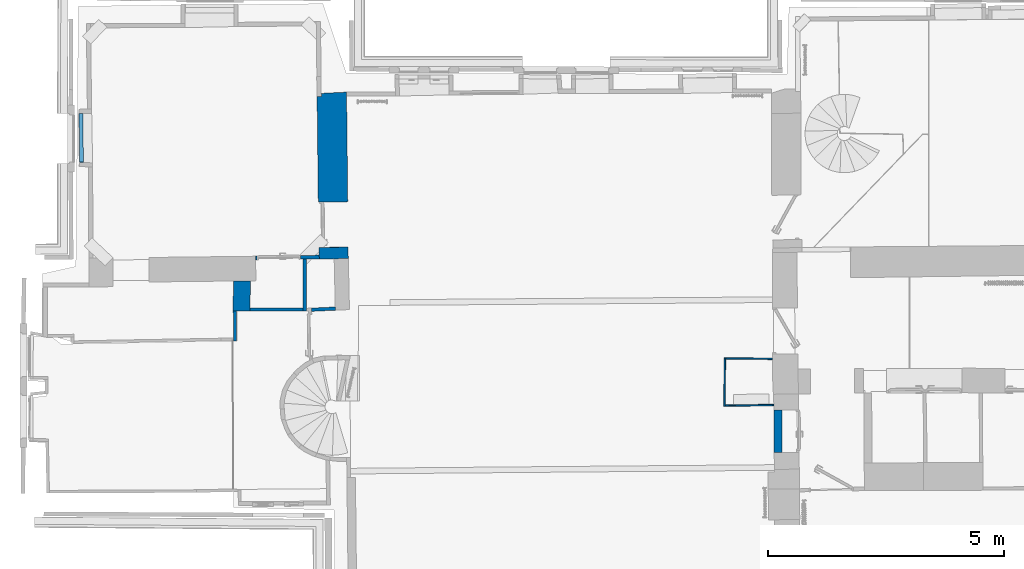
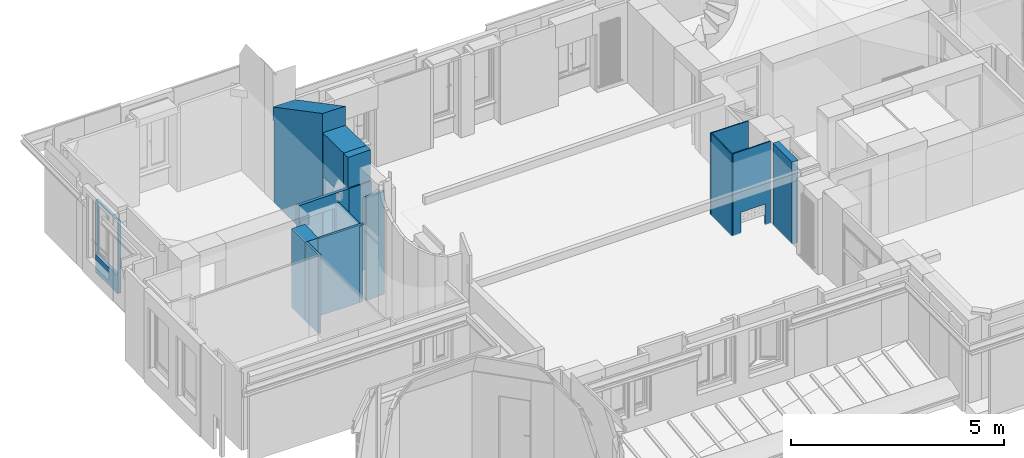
# One storey, part 12 of 72: 14 walls, 4 openings.
"""IFC2X3 building model written with IfcOpenShell, lengths in centimetres."""

from ifc_helpers import new_model, entity, si_unit, converted_unit, direction, frame, origin, origin_with_axes, origin_2d_with_axis, place, context, subcontext, project, spatial, polyline, rectangle, outline, extrude, clip, bounded_halfspace, shape, material, layer, layer_set, layer_usage, type_object, element, save


model = new_model("IFC2X3")

# Units and contexts
model_context = context("Model", 3, precision=0.0001, world=origin(), true_north=direction((0.225632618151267, 0.974212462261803, 0.0)))
body_context = subcontext(model_context, "Body", "Model", "MODEL_VIEW")
footprint_context = subcontext(model_context, "FootPrint", "Model", "MODEL_VIEW")
profile_context = subcontext(model_context, "Profile", "Model", "MODEL_VIEW")
ifc_project = project(units=[si_unit("LENGTHUNIT", "METRE", prefix="CENTI"), si_unit("AREAUNIT", "SQUARE_METRE", prefix="CENTI"), si_unit("VOLUMEUNIT", "CUBIC_METRE", prefix="CENTI"), converted_unit("PLANEANGLEUNIT", "DEGREE", entity("IfcRatioMeasure", 0.0174532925), si_unit("PLANEANGLEUNIT", "RADIAN"), dimensions=[0, 0, 0, 0, 0, 0, 0])], contexts=[model_context])

# Site, building, storey
site_placement = place(None, origin_with_axes())
site = spatial("IfcSite", under=ifc_project, at=site_placement, Name="Default Site", CompositionType="ELEMENT")
building_placement = place(site_placement, origin_with_axes())
building = spatial("IfcBuilding", under=site, at=building_placement, Name="Default Building", CompositionType="ELEMENT")
storey_placement = place(building_placement, frame((0.0, 0.0, 853.910374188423), z_axis=(0.0, 0.0, 1.0), x_axis=(1.0, 0.0, 0.0)))
storey = spatial("IfcBuildingStorey", under=building, at=storey_placement, Name="Niveau 2", CompositionType="ELEMENT", Elevation=853.910374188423)

# Walls
ifc_material = material(Name="<aucun>")
ifc_layer_1 = layer(ifc_material, 6.5)
ifc_layer_set_1 = layer_set([ifc_layer_1], Name="default")
ifc_layer_usage_1 = layer_usage(ifc_layer_set_1, "AXIS2", "POSITIVE", -3.25)
wall_type_1 = type_object("IfcWallType", Name="default 65", PredefinedType="NOTDEFINED", material=ifc_layer_set_1)
wall_1_placement = place(storey_placement, frame((-904.525063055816, 30.5917552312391, 1.4210854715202e-12), z_axis=(0.0, 0.0, 1.0), x_axis=(-0.0130954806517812, 0.999914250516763, 0.0)))
element("IfcWallStandardCase", 1, at=wall_1_placement, inside=storey, type_object=wall_type_1, material=ifc_layer_usage_1, Name="Enveloppe 170648", context=body_context, shape_type="SweptSolid", body=[
    extrude(rectangle(XDim=6.49999999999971, YDim=62.9751374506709, at=origin_2d_with_axis()), frame((31.4875687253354, 0.0, -1.77635683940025e-13), z_axis=(0.0, 0.0, 1.0), x_axis=(4.13211131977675e-15, -1.0, 0.0)), (0.0, 0.0, 1.0), 225.0),
])
ifc_layer_2 = layer(ifc_material, 6.0)
ifc_layer_set_2 = layer_set([ifc_layer_2], Name="default")
ifc_layer_usage_2 = layer_usage(ifc_layer_set_2, "AXIS2", "POSITIVE", -3.0)
wall_type_2 = type_object("IfcWallType", Name="default 60", PredefinedType="NOTDEFINED", material=ifc_layer_set_2)
wall_2_placement = place(storey_placement, frame((-872.912731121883, 96.7486196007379, 1.4210854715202e-12), z_axis=(0.0, 0.0, 1.0), x_axis=(0.999998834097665, 0.00152702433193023, 0.0)))
element("IfcWallStandardCase", 2, at=wall_2_placement, inside=storey, type_object=wall_type_2, material=ifc_layer_usage_2, Name="Enveloppe 168356", context=body_context, shape_type="Clipping", body=[
    clip(clip(clip(extrude(outline(polyline([(-0.0951422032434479, -3.00000000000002), (124.043876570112, -3.00000000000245), (123.963331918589, 2.99999999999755), (0.00485779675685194, 3.00000000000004), (-0.0951422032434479, -3.00000000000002)])), frame((0.0, 0.0, -3.5527136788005e-13), z_axis=(0.0, 0.0, 1.0), x_axis=(1.0, 0.0, 0.0)), (0.0, 0.0, 1.0), 221.999999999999), bounded_halfspace(frame((123.963331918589, 2.99999999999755, 218.5), z_axis=(0.0, 0.0, 1.0), x_axis=(0.0134228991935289, -0.999909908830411, 0.0)), True, frame((123.963331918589, 2.99999999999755, 218.5), z_axis=(0.0, 0.0, 1.0), x_axis=(1.0, 0.0, 0.0)), polyline([(-4.27435861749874, -0.476084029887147), (-4.27202053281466, 6.66133814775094e-14), (-8.88178419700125e-14, 0.0), (0.00373834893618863, -0.278480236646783), (-4.27435861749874, -0.476084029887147)]))), bounded_halfspace(frame((111.6912149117, 2.99999999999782, 218.5), z_axis=(0.0, 0.0, 1.0), x_axis=(1.0, -2.33055762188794e-14, 0.0)), True, frame((111.6912149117, 2.99999999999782, 218.5), z_axis=(0.0, 0.0, 1.0), x_axis=(1.0, 0.0, 0.0)), polyline([(-0.0294664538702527, -6.00000000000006), (-8.88178419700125e-14, 0.0), (8.00009647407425, -1.99840144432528e-13), (7.97063002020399, -6.00000000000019), (-0.0294664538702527, -6.00000000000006)]))), bounded_halfspace(frame((119.688973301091, 2.5239159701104, 218.5), z_axis=(0.0, 0.0, 1.0), x_axis=(0.998934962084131, 0.0461404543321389, 0.0)), True, frame((119.688973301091, 2.5239159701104, 218.5), z_axis=(0.0, 0.0, 1.0), x_axis=(1.0, 0.0, 0.0)), polyline([(-0.0271283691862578, -5.52391597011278), (-8.88178419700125e-14, 0.0), (4.27809696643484, 0.197603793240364), (4.35490326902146, -5.52391597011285), (-0.0271283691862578, -5.52391597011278)]))),
])
ifc_layer_3 = layer(ifc_material, 7.0)
ifc_layer_set_3 = layer_set([ifc_layer_3], Name="default")
ifc_layer_usage_3 = layer_usage(ifc_layer_set_3, "AXIS2", "POSITIVE", -3.5)
wall_type_3 = type_object("IfcWallType", Name="default 70", PredefinedType="NOTDEFINED", material=ifc_layer_set_3)
wall_3_placement = place(storey_placement, frame((-743.021662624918, 96.4383527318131, 1.4210854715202e-12), z_axis=(0.0, 0.0, 1.0), x_axis=(0.998863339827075, 0.0476657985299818, 0.0)))
element("IfcWallStandardCase", 3, at=wall_3_placement, inside=storey, type_object=wall_type_3, material=ifc_layer_usage_3, Name="Enveloppe 177079", context=body_context, shape_type="Clipping", body=[
    clip(extrude(outline(polyline([(0.0059746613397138, 3.50000000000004), (0.00597466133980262, -3.49999999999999), (50.7054738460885, -3.49999999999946), (50.8795081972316, 3.50000000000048), (0.0059746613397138, 3.50000000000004)])), frame((0.0, 0.0, -3.5527136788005e-13), z_axis=(0.0, 0.0, 1.0), x_axis=(1.0, 0.0, 0.0)), (0.0, 0.0, 1.0), 294.702416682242), bounded_halfspace(frame((0.00597466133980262, -3.49999999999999, 218.5), z_axis=(0.0, 0.0, -1.0), x_axis=(0.0327276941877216, 0.999464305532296, 0.0)), True, frame((0.00597466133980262, -3.49999999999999, 218.5), z_axis=(0.0, 0.0, 1.0), x_axis=(1.0, 0.0, 0.0)), polyline([(-8.88178419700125e-14, 0.0), (0.229216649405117, 7.00000000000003), (-1.77635683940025e-13, 7.00000000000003), (-8.88178419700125e-14, 0.0)]))),
])
ifc_layer_4 = layer(ifc_material, 8.0)
ifc_layer_set_4 = layer_set([ifc_layer_4], Name="default")
ifc_layer_usage_4 = layer_usage(ifc_layer_set_4, "AXIS2", "POSITIVE", -4.0)
wall_type_4 = type_object("IfcWallType", Name="default 80", PredefinedType="NOTDEFINED", material=ifc_layer_set_4)
wall_4_placement = place(storey_placement, frame((-757.227497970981, 99.5369725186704, 1.4210854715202e-12), z_axis=(0.0, 0.0, 1.0), x_axis=(0.00338400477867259, 0.999994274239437, 0.0)))
element("IfcWallStandardCase", 4, at=wall_4_placement, inside=storey, type_object=wall_type_4, material=ifc_layer_usage_4, Name="Enveloppe 168225", context=body_context, shape_type="SweptSolid", body=[
    extrude(outline(polyline([(-5.63140747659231, 4.0), (-5.59211887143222, -4.00000000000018), (104.145429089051, -3.99999999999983), (103.998591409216, 4.00000000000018), (-5.63140747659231, 4.0)])), frame((0.0, 0.0, -3.5527136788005e-13), z_axis=(0.0, 0.0, 1.0), x_axis=(1.0, 0.0, 0.0)), (0.0, 0.0, 1.0), 218.5),
])

# Wall, opening
ifc_layer_usage_5 = layer_usage(ifc_layer_set_4, "AXIS2", "POSITIVE", -4.0)
wall_5_placement = place(storey_placement, frame((-1230.09944042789, 409.144526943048, 1.4210854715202e-12), z_axis=(0.0, 0.0, 1.0), x_axis=(-0.0115145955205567, 0.999933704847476, 0.0)))
wall_5 = element("IfcWallStandardCase", 5, at=wall_5_placement, inside=storey, type_object=wall_type_4, material=ifc_layer_usage_5, Name="Enveloppe 170861", context=body_context, shape_type="SweptSolid", body=[
    extrude(outline(polyline([(103.241770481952, 4.00000000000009), (0.0, 4.00000000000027), (-0.490794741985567, -3.99999999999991), (103.299633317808, -4.00000000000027), (103.241770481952, 4.00000000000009)])), origin_with_axes(), (0.0, 0.0, 1.0), 208.0),
])
opening_1_placement = place(wall_5_placement, frame((0.0895585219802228, 0.0, 53.9999999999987), z_axis=(0.0, 0.0, 1.0), x_axis=(-1.0, 4.50334214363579e-15, 0.0)))
cartesian_point_1 = entity("IfcCartesianPoint", [0.0, 0.0, 153.0])
cartesian_point_2 = entity("IfcCartesianPoint", [-102.647776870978, -4.00000000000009])
element("IfcOpeningElement", 6, at=opening_1_placement, cuts=wall_5, Name="4294966523_11", ObjectType="Opening", shapes=[
    shape(body_context, "Body", "SweptSolid", [extrude(outline(polyline([(8.88178419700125e-14, 153.0), (8.88178419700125e-14, -3.00000000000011), (102.647776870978, -3.00000000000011), (102.647776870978, 153.0), (8.88178419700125e-14, 153.0)])), frame((0.0, -14.0, 0.0), z_axis=(0.0, 1.0, 0.0), x_axis=(-1.0, 0.0, 0.0)), (0.0, 0.0, 1.0), 28.0)]),
    shape(profile_context, "Profile", "GeometricCurveSet", [entity("IfcGeometricCurveSet", [entity("IfcPolyline", [cartesian_point_1, entity("IfcCartesianPoint", [0.0, 0.0, -1.77635683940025e-13]), entity("IfcCartesianPoint", [-102.647776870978, -1.77635683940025e-13, -1.77635683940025e-13]), entity("IfcCartesianPoint", [-102.647776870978, -1.77635683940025e-13, 153.0]), cartesian_point_1])])]),
    shape(footprint_context, "FootPrint", "GeometricCurveSet", [entity("IfcGeometricCurveSet", [entity("IfcPolyline", [cartesian_point_2, entity("IfcCartesianPoint", [-8.88178419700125e-14, -4.00000000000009]), entity("IfcCartesianPoint", [-8.88178419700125e-14, 3.99999999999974]), entity("IfcCartesianPoint", [-102.647776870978, 3.99999999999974]), cartesian_point_2])])]),
])

ifc_layer_usage_6 = layer_usage(ifc_layer_set_4, "AXIS2", "POSITIVE", -4.0)
wall_6_placement = place(storey_placement, frame((-870.134391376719, 205.913374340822, 1.4210854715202e-12), z_axis=(0.0, 0.0, 1.0), x_axis=(0.999887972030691, 0.0149680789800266, 0.0)))
wall_6 = element("IfcWallStandardCase", 7, at=wall_6_placement, inside=storey, type_object=wall_type_4, material=ifc_layer_usage_6, Name="Enveloppe 168123", context=body_context, shape_type="Clipping", body=[
    clip(extrude(outline(polyline([(113.28530300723, 3.99999999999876), (109.211210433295, 3.9999999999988), (4.46514447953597, 3.99999999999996), (4.46505464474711, 3.85737589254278), (8.96767205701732, 3.84339483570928), (8.96767205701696, -4.00000000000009), (109.211210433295, -4.00000000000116), (113.285303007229, -4.00000000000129), (143.893526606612, -4.00000000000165), (143.830658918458, 3.9999999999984), (113.28530300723, 3.99999999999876)])), frame((0.0, 0.0, -5.32907051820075e-13), z_axis=(0.0, 0.0, 1.0), x_axis=(1.0, 0.0, 0.0)), (0.0, 0.0, 1.0), 247.499999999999), bounded_halfspace(frame((12.2088872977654, 3.86839882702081, 221.999999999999), z_axis=(0.0, 0.0, -1.0), x_axis=(-0.01321854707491, -0.99991263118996, 0.0)), True, frame((12.2088872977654, 3.86839882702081, 221.999999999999), z_axis=(0.0, 0.0, 1.0), x_axis=(1.0, 0.0, 0.0)), polyline([(-0.000675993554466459, -0.0511353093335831), (97.0023231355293, -1.14214047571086), (0.0, 0.0), (-0.000675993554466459, -0.0511353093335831)]))),
])
opening_2_placement = place(wall_6_placement, frame((12.2096018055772, -1.4210854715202e-13, -1.77635683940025e-13), z_axis=(0.0, 0.0, 1.0), x_axis=(1.0, -1.08819203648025e-14, 0.0)))
cartesian_point_3 = entity("IfcCartesianPoint", [0.0, 0.0, 205.0])
cartesian_point_4 = entity("IfcCartesianPoint", [92.1431842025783, 4.0])
element("IfcOpeningElement", 8, at=opening_2_placement, cuts=wall_6, Name="4294966375_11", ObjectType="Opening", shapes=[
    shape(body_context, "Body", "SweptSolid", [extrude(outline(polyline([(0.0, 205.0), (0.0, 1.77635683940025e-13), (92.1431842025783, 1.77635683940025e-13), (92.1431842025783, 205.0), (0.0, 205.0)])), frame((0.0, 14.0, 0.0), z_axis=(0.0, -1.0, 0.0), x_axis=(1.0, 0.0, 0.0)), (0.0, 0.0, 1.0), 28.0)]),
    shape(profile_context, "Profile", "GeometricCurveSet", [entity("IfcGeometricCurveSet", [entity("IfcPolyline", [cartesian_point_3, entity("IfcCartesianPoint", [0.0, 0.0, 1.77635683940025e-13]), entity("IfcCartesianPoint", [92.1431842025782, 0.0, 1.77635683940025e-13]), entity("IfcCartesianPoint", [92.1431842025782, 0.0, 205.0]), cartesian_point_3])])]),
    shape(footprint_context, "FootPrint", "GeometricCurveSet", [entity("IfcGeometricCurveSet", [entity("IfcPolyline", [cartesian_point_4, entity("IfcCartesianPoint", [0.0, 4.0]), entity("IfcCartesianPoint", [-1.77635683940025e-13, -3.99999999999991]), entity("IfcCartesianPoint", [92.1431842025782, -4.0]), cartesian_point_4])])]),
])

# Walls
ifc_layer_5 = layer(ifc_material, 16.5)
ifc_layer_set_5 = layer_set([ifc_layer_5], Name="default")
ifc_layer_usage_7 = layer_usage(ifc_layer_set_5, "AXIS2", "POSITIVE", -8.25)
wall_type_5 = type_object("IfcWallType", Name="default 165", PredefinedType="NOTDEFINED", material=ifc_layer_set_5)
wall_7_placement = place(storey_placement, frame((246.089009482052, -207.074628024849, 1.4210854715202e-12), z_axis=(0.0, 0.0, 1.0), x_axis=(-0.00303669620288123, 0.999995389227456, 0.0)))
element("IfcWallStandardCase", 9, at=wall_7_placement, inside=storey, type_object=wall_type_5, material=ifc_layer_usage_7, Name="Enveloppe 152282", context=body_context, shape_type="SweptSolid", body=[
    extrude(rectangle(XDim=16.5000000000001, YDim=90.170188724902, at=origin_2d_with_axis()), frame((45.8169880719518, -4.44089209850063e-14, -3.5527136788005e-13), z_axis=(0.0, 0.0, 1.0), x_axis=(-7.80625564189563e-18, -1.0, 0.0)), (0.0, 0.0, 1.0), 234.999999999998),
])
ifc_layer_6 = layer(ifc_material, 3.0)
ifc_layer_set_6 = layer_set([ifc_layer_6], Name="default")
ifc_layer_usage_8 = layer_usage(ifc_layer_set_6, "AXIS2", "POSITIVE", -1.5)
wall_type_6 = type_object("IfcWallType", Name="default 30", PredefinedType="NOTDEFINED", material=ifc_layer_set_6)
wall_8_placement = place(storey_placement, frame((234.149277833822, -7.57382069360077, 1.06581410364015e-12), z_axis=(0.0, 0.0, 1.0), x_axis=(-0.99998155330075, 0.00607396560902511, 0.0)))
element("IfcWallStandardCase", 10, at=wall_8_placement, inside=storey, type_object=wall_type_6, material=ifc_layer_usage_8, Name="Enveloppe 198751", context=body_context, shape_type="Clipping", body=[
    clip(extrude(rectangle(XDim=3.00013209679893, YDim=102.023095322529, at=origin_2d_with_axis()), frame((51.2786989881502, -4.36255393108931e-05, -5.32907051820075e-13), z_axis=(0.0, 0.0, 1.0), x_axis=(2.6744362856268e-07, -0.999999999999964, 0.0)), (0.0, 0.0, 1.0), 234.999999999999), bounded_halfspace(frame((0.328085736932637, -1.5, 209.999999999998), z_axis=(0.0, 0.0, 1.0), x_axis=(-1.0, 4.19456136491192e-15, 0.0)), True, frame((0.328085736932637, -1.5, 209.999999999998), z_axis=(0.0, 0.0, 1.0), x_axis=(1.0, 0.0, 0.0)), polyline([(-0.0609348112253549, 4.85722573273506e-15), (-0.0609348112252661, 3.00000000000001), (0.0, 0.0), (-0.0609348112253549, 4.85722573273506e-15)]))),
])
ifc_layer_usage_9 = layer_usage(ifc_layer_set_6, "AXIS2", "POSITIVE", -1.5)
wall_9_placement = place(storey_placement, frame((132.747635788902, -108.169680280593, 1.06581410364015e-12), z_axis=(0.0, 0.0, 1.0), x_axis=(0.00605901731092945, 0.999981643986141, 0.0)))
element("IfcWallStandardCase", 11, at=wall_9_placement, inside=storey, type_object=wall_type_6, material=ifc_layer_usage_9, Name="Enveloppe 198834", context=body_context, shape_type="SweptSolid", body=[
    extrude(outline(polyline([(-0.0528833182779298, 1.50000000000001), (-2.22044604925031e-14, -1.49999999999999), (99.7098916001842, -1.49999999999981), (99.7098916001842, 1.50000000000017), (-0.0528833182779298, 1.50000000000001)])), origin_with_axes(), (0.0, 0.0, 1.0), 234.999999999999),
])

# Wall, opening
ifc_layer_usage_10 = layer_usage(ifc_layer_set_6, "AXIS2", "POSITIVE", -1.5)
wall_10_placement = place(storey_placement, frame((134.23025830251, -106.678869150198, 1.06581410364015e-12), z_axis=(0.0, 0.0, 1.0), x_axis=(0.999933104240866, 0.0115666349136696, 0.0)))
wall_10 = element("IfcWallStandardCase", 12, at=wall_10_placement, inside=storey, type_object=wall_type_6, material=ifc_layer_usage_10, Name="Enveloppe 198864", context=body_context, shape_type="SweptSolid", body=[
    extrude(outline(polyline([(-4.44089209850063e-14, -1.50000000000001), (102.934505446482, -1.50000000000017), (102.934505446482, 1.49999999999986), (0.052883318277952, 1.49999999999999), (-4.44089209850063e-14, -1.50000000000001)])), frame((0.0, 0.0, -3.5527136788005e-13), z_axis=(0.0, 0.0, 1.0), x_axis=(1.0, 0.0, 0.0)), (0.0, 0.0, 1.0), 234.999999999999),
])
opening_3_placement = place(wall_10_placement, frame((22.4727291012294, -2.8421709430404e-14, -3.5527136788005e-13), z_axis=(0.0, 0.0, 1.0), x_axis=(1.0, -1.22471477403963e-15, 0.0)))
cartesian_point_5 = entity("IfcCartesianPoint", [0.0, 0.0, 60.0])
cartesian_point_6 = entity("IfcCartesianPoint", [65.7662885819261, 1.49999999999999])
element("IfcOpeningElement", 13, at=opening_3_placement, cuts=wall_10, Name="4294966386_11", ObjectType="Opening", shapes=[
    shape(body_context, "Body", "SweptSolid", [extrude(outline(polyline([(0.0, 60.0), (0.0, 0.0), (65.7662885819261, 0.0), (65.7662885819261, 60.0), (0.0, 60.0)])), frame((0.0, 11.5, 0.0), z_axis=(0.0, -1.0, 0.0), x_axis=(1.0, 0.0, 0.0)), (0.0, 0.0, 1.0), 23.0)]),
    shape(profile_context, "Profile", "GeometricCurveSet", [entity("IfcGeometricCurveSet", [entity("IfcPolyline", [cartesian_point_5, entity("IfcCartesianPoint", [0.0, 0.0, 0.0]), entity("IfcCartesianPoint", [65.7662885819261, 0.0, 0.0]), entity("IfcCartesianPoint", [65.7662885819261, 0.0, 60.0]), cartesian_point_5])])]),
    shape(footprint_context, "FootPrint", "GeometricCurveSet", [entity("IfcGeometricCurveSet", [entity("IfcPolyline", [cartesian_point_6, entity("IfcCartesianPoint", [0.0, 1.50000000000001]), entity("IfcCartesianPoint", [2.22044604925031e-14, -1.50000000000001]), entity("IfcCartesianPoint", [65.7662885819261, -1.50000000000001]), cartesian_point_6])])]),
])

# Walls
ifc_layer_7 = layer(ifc_material, 62.5)
ifc_layer_set_7 = layer_set([ifc_layer_7], Name="default")
ifc_layer_usage_11 = layer_usage(ifc_layer_set_7, "AXIS2", "POSITIVE", -31.25)
wall_type_7 = type_object("IfcWallType", Name="default 625", PredefinedType="NOTDEFINED", material=ifc_layer_set_7)
wall_11_placement = place(storey_placement, frame((-697.071419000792, 325.049338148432, 1.4210854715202e-12), z_axis=(0.0, 0.0, 1.0), x_axis=(-0.0114771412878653, 0.999934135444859, 0.0)))
solid = clip(clip(clip(clip(clip(clip(clip(clip(extrude(outline(polyline([(228.46900142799, 31.2500000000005), (-4.44089209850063e-14, 31.2500000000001), (-7.47783395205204e-06, 30.2493485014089), (-0.0567686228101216, 30.25), (-0.056768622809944, -31.2499999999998), (232.310778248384, -31.2499999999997), (230.214873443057, 22.3591011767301), (228.46900142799, 22.3465707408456), (228.46900142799, 31.2500000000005)])), frame((0.0, 0.0, -8.88178419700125e-13), z_axis=(0.0, 0.0, 1.0), x_axis=(1.0, 0.0, 0.0)), (0.0, 0.0, 1.0), 390.553546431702), bounded_halfspace(frame((223.814275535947, 31.2500000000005, 234.999999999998), z_axis=(0.0, 0.0, 1.0), x_axis=(1.0, 6.06979744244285e-15, 0.0)), True, frame((223.814275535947, 31.2500000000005, 234.999999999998), z_axis=(0.0, 0.0, 1.0), x_axis=(1.0, 0.0, 0.0)), polyline([(-8.88178419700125e-14, -8.93683705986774), (8.88178419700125e-14, 0.0), (4.65472589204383, 0.0), (4.65472589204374, -8.90342925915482), (-8.88178419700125e-14, -8.93683705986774)]))), bounded_halfspace(frame((-4.44089209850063e-14, 31.2500000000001, 390.548186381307), z_axis=(-0.461153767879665, 0.0214243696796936, -0.887061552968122), x_axis=(0.887215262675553, -0.00424390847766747, -0.461336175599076)), True, frame((-4.44089209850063e-14, 31.2500000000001, 390.548186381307), z_axis=(0.0, 0.0, 1.0), x_axis=(1.0, 0.0, 0.0)), polyline([(0.0, -4.03979074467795), (81.9084065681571, -4.43159169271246), (70.4691076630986, 8.88178419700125e-14), (4.44089209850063e-14, 8.88178419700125e-14), (0.0, -4.03979074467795)]))), bounded_halfspace(frame((229.828531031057, 16.9523686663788, 270.722667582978), z_axis=(-0.461153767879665, 0.0214243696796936, -0.887061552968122), x_axis=(0.855180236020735, -0.255894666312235, -0.450760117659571)), True, frame((229.828531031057, 16.9523686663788, 270.722667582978), z_axis=(0.0, 0.0, 1.0), x_axis=(1.0, 0.0, 0.0)), polyline([(0.0, 8.88178419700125e-14), (0.324540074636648, -37.8683504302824), (2.0989864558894, -38.3993161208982), (0.597788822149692, -0.00164861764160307), (0.0, 8.88178419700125e-14)]))), bounded_halfspace(frame((81.9084065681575, 26.8184083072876, 347.859700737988), z_axis=(-0.461153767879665, 0.0214243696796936, -0.887061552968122), x_axis=(0.836196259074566, -0.323942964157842, -0.442534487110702)), True, frame((81.9084065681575, 26.8184083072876, 347.859700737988), z_axis=(0.0, 0.0, 1.0), x_axis=(1.0, 0.0, 0.0)), polyline([(8.88178419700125e-14, 0.0), (38.3060423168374, -14.8397852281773), (146.560594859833, -47.2304677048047), (146.560594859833, -4.47183756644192), (141.905868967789, -4.50524536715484), (141.905868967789, -0.678793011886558), (8.88178419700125e-14, 0.0)]))), bounded_halfspace(frame((-0.0567686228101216, 30.25, 390.553546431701), z_axis=(-0.461153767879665, 0.0214243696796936, -0.887061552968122), x_axis=(1.75345848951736e-14, -0.999708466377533, -0.0241450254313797)), True, frame((-0.0567686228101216, 30.25, 390.553546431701), z_axis=(0.0, 0.0, 1.0), x_axis=(1.0, 0.0, 0.0)), polyline([(1.33226762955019e-13, -3.03951919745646), (0.0567686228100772, -3.03979074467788), (0.0567686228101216, 1.77635683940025e-13), (0.0, 0.0), (1.33226762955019e-13, -3.03951919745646)]))), bounded_halfspace(frame((-0.0567686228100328, 27.2104808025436, 390.4801357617), z_axis=(-0.461153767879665, 0.0214243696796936, -0.887061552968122), x_axis=(0.887265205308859, 6.32676203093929e-13, -0.461259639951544)), True, frame((-0.0567686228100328, 27.2104808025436, 390.4801357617), z_axis=(0.0, 0.0, 1.0), x_axis=(1.0, 0.0, 0.0)), polyline([(1.33226762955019e-13, -58.4604808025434), (0.0567686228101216, -58.4604808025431), (0.0567686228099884, -0.000271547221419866), (4.44089209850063e-14, 0.0), (1.33226762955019e-13, -58.4604808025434)]))), bounded_halfspace(frame((228.56900142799, 22.3472884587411, 271.507753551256), z_axis=(-0.461153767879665, 0.0214243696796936, -0.887061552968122), x_axis=(-0.0390276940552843, 0.998251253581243, 0.0443990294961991)), True, frame((228.56900142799, 22.3472884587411, 271.507753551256), z_axis=(0.0, 0.0, 1.0), x_axis=(1.0, 0.0, 0.0)), polyline([(8.88178419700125e-14, -42.7892707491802), (1.5840696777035, -43.2632702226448), (1.25952960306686, -5.39491979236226), (1.85731842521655, -5.39656841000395), (1.64587201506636, 0.0118127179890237), (8.88178419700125e-14, 8.88178419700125e-14), (8.88178419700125e-14, -42.7892707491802)]))), bounded_halfspace(frame((228.46900142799, -31.2499999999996, 234.999999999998), z_axis=(0.0, 0.0, -1.0), x_axis=(1.0, -7.33347410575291e-13, 0.0)), True, frame((228.46900142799, -31.2499999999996, 234.999999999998), z_axis=(0.0, 0.0, 1.0), x_axis=(1.0, 0.0, 0.0)), polyline([(8.88178419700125e-14, 0.0), (0.0999999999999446, 0.0), (0.100000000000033, 53.5972884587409), (-8.88178419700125e-14, 53.5965707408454), (8.88178419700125e-14, 0.0)])))
element("IfcWallStandardCase", 14, at=wall_11_placement, inside=storey, type_object=wall_type_7, material=ifc_layer_usage_11, Name="Enveloppe 167088", context=body_context, shape_type="Clipping", body=[
    clip(clip(clip(clip(clip(solid, bounded_halfspace(frame((70.4691076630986, 31.2500000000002, 353.9136434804), z_axis=(-0.461153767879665, 0.0214243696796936, -0.887061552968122), x_axis=(-0.887265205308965, -2.00534033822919e-15, 0.46125963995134)), True, frame((70.4691076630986, 31.2500000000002, 353.9136434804), z_axis=(0.0, 0.0, 1.0), x_axis=(1.0, 0.0, 0.0)), polyline([(0.0, 0.0), (11.4392989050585, -4.43159169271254), (153.345167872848, -5.1103847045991), (153.345167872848, 3.5527136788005e-13), (0.0, 0.0)]))), bounded_halfspace(frame((230.153071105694, -20.9159817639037, 269.639351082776), z_axis=(-0.461153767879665, 0.0214243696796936, -0.887061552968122), x_axis=(-0.0390276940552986, 0.998251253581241, 0.0443990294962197)), True, frame((230.153071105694, -20.9159817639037, 269.639351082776), z_axis=(0.0, 0.0, 1.0), x_axis=(1.0, 0.0, 0.0)), polyline([(8.88178419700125e-14, 8.88178419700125e-14), (0.0885648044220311, -10.3340182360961), (2.15770714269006, -10.3340182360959), (1.77444638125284, -0.530965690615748), (8.88178419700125e-14, 8.88178419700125e-14)]))), bounded_halfspace(frame((-4.44089209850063e-14, 27.210209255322, 390.450617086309), z_axis=(-0.461153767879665, 0.0214243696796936, -0.887061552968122), x_axis=(0.887265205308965, 1.16226472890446e-16, -0.461259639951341)), True, frame((-4.44089209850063e-14, 27.210209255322, 390.450617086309), z_axis=(0.0, 0.0, 1.0), x_axis=(1.0, 0.0, 0.0)), polyline([(1.33226762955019e-13, -58.4602092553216), (228.469001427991, -58.4602092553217), (228.469001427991, -47.6222686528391), (120.225730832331, -15.2327506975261), (81.9084065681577, -0.391800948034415), (0.0, 8.88178419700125e-14), (1.33226762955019e-13, -58.4602092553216)]))), bounded_halfspace(frame((228.56900142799, -20.4419822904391, 270.474304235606), z_axis=(-0.461153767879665, 0.0214243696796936, -0.887061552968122), x_axis=(-0.00856640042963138, 0.999554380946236, 0.0285946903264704)), True, frame((228.56900142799, -20.4419822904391, 270.474304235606), z_axis=(0.0, 0.0, 1.0), x_axis=(1.0, 0.0, 0.0)), polyline([(0.0, -10.8080177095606), (1.67263448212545, -10.8080177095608), (1.5840696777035, -0.473999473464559), (8.88178419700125e-14, 0.0), (0.0, -10.8080177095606)]))), bounded_halfspace(frame((223.814275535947, 31.2500000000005, 274.1945961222), z_axis=(-0.461153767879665, 0.0214243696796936, -0.887061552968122), x_axis=(2.2737020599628e-14, -0.999708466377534, -0.0241450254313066)), True, frame((223.814275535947, 31.2500000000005, 274.1945961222), z_axis=(0.0, 0.0, 1.0), x_axis=(1.0, 0.0, 0.0)), polyline([(-8.88178419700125e-14, -8.93683705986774), (4.65472589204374, -8.90342925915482), (4.65472589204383, 0.0), (8.88178419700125e-14, 0.0), (-8.88178419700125e-14, -8.93683705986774)]))),
])
ifc_layer_8 = layer(ifc_material, 61.5)
ifc_layer_set_8 = layer_set([ifc_layer_8], Name="default")
ifc_layer_usage_12 = layer_usage(ifc_layer_set_8, "AXIS2", "POSITIVE", -30.75)
wall_type_8 = type_object("IfcWallType", Name="default 615", PredefinedType="NOTDEFINED", material=ifc_layer_set_8)
wall_12_placement = place(storey_placement, frame((-695.535500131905, 208.29001243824, 1.4210854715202e-12), z_axis=(0.0, 0.0, 1.0), x_axis=(-0.0228249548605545, 0.999739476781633, 0.0)))
element("IfcWallStandardCase", 15, at=wall_12_placement, inside=storey, type_object=wall_type_8, material=ifc_layer_usage_12, Name="Enveloppe 168083", context=body_context, shape_type="Clipping", body=[
    clip(clip(extrude(outline(polyline([(20.4036856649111, 30.7499999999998), (-3.52143036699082, 30.7499999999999), (-3.76897188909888, -0.750000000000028), (-4.00472571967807, -0.750000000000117), (-4.00472571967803, -30.75), (20.1249075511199, -30.7500000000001), (20.8168218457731, 30.2114438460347), (20.4036856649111, 30.2161329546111), (20.4036856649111, 30.7499999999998)])), frame((0.0, 0.0, -5.32907051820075e-13), z_axis=(0.0, 0.0, 1.0), x_axis=(1.0, 0.0, 0.0)), (0.0, 0.0, 1.0), 334.702416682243), bounded_halfspace(frame((-4.00472571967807, -0.750000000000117, 247.500000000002), z_axis=(0.0, 0.0, -1.0), x_axis=(1.22124532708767e-15, -1.0, 0.0)), True, frame((-4.00472571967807, -0.750000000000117, 247.500000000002), z_axis=(0.0, 0.0, 1.0), x_axis=(1.0, 0.0, 0.0)), polyline([(8.88178419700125e-14, -30.0), (4.00472571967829, -30.0000000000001), (4.00472571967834, -8.88178419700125e-14), (4.44089209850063e-14, -8.88178419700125e-14), (8.88178419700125e-14, -30.0)]))), bounded_halfspace(frame((-3.52143036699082, 30.7499999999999, 247.500000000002), z_axis=(0.0, 0.0, -1.0), x_axis=(-0.0078582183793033, -0.999969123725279, 0.0)), True, frame((-3.52143036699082, 30.7499999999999, 247.500000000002), z_axis=(0.0, 0.0, 1.0), x_axis=(1.0, 0.0, 0.0)), polyline([(-0.247541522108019, -31.5), (3.52143036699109, -31.5000000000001), (3.52143036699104, 0.0), (0.0, -8.88178419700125e-14), (-0.247541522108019, -31.5)]))),
])

# Wall, opening
ifc_layer_usage_13 = layer_usage(ifc_layer_set_8, "AXIS2", "POSITIVE", -30.75)
wall_13_placement = place(storey_placement, frame((-695.466241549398, 228.764758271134, 1.4210854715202e-12), z_axis=(0.0, 0.0, 1.0), x_axis=(-0.0114771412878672, 0.999934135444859, 0.0)))
wall_13 = element("IfcWallStandardCase", 16, at=wall_13_placement, inside=storey, type_object=wall_type_8, material=ifc_layer_usage_13, Name="Enveloppe 168119", context=body_context, shape_type="SweptSolid", body=[
    extrude(rectangle(XDim=61.5, YDim=96.2398923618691, at=origin_2d_with_axis()), frame((48.1199461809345, 0.0, -5.32907051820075e-13), z_axis=(0.0, 0.0, 1.0), x_axis=(7.21644966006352e-16, -1.0, 0.0)), (0.0, 0.0, 1.0), 334.702416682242),
])
opening_4_placement = place(wall_13_placement, frame((0.222674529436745, 1.13686837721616e-13, -1.4210854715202e-12), z_axis=(0.0, 0.0, 1.0), x_axis=(-1.0, 4.14598910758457e-16, 0.0)))
cartesian_point_7 = entity("IfcCartesianPoint", [-4.44089209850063e-14, 0.0, 210.0])
cartesian_point_8 = entity("IfcCartesianPoint", [-95.9994785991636, -30.75])
element("IfcOpeningElement", 17, at=opening_4_placement, cuts=wall_13, Name="4294966373_11", ObjectType="Opening", shapes=[
    shape(body_context, "Body", "SweptSolid", [extrude(outline(polyline([(4.44089209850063e-14, 210.0), (4.44089209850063e-14, -1.77635683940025e-13), (95.9994785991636, -1.77635683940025e-13), (95.9994785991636, 210.0), (4.44089209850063e-14, 210.0)])), frame((0.0, -40.75, 0.0), z_axis=(0.0, 1.0, 0.0), x_axis=(-1.0, 0.0, 0.0)), (0.0, 0.0, 1.0), 81.5)]),
    shape(profile_context, "Profile", "GeometricCurveSet", [entity("IfcGeometricCurveSet", [entity("IfcPolyline", [cartesian_point_7, entity("IfcCartesianPoint", [-4.44089209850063e-14, 0.0, -1.77635683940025e-13]), entity("IfcCartesianPoint", [-95.9994785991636, 0.0, -1.77635683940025e-13]), entity("IfcCartesianPoint", [-95.9994785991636, 0.0, 210.0]), cartesian_point_7])])]),
    shape(footprint_context, "FootPrint", "GeometricCurveSet", [entity("IfcGeometricCurveSet", [entity("IfcPolyline", [cartesian_point_8, entity("IfcCartesianPoint", [-4.44089209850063e-14, -30.7500000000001]), entity("IfcCartesianPoint", [-4.44089209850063e-14, 30.75]), entity("IfcCartesianPoint", [-95.9994785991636, 30.7499999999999]), cartesian_point_8])])]),
])

# Wall
ifc_layer_9 = layer(ifc_material, 36.0)
ifc_layer_set_9 = layer_set([ifc_layer_9], Name="default")
ifc_layer_usage_14 = layer_usage(ifc_layer_set_9, "AXIS2", "POSITIVE", -18.0)
wall_type_9 = type_object("IfcWallType", Name="default 360", PredefinedType="NOTDEFINED", material=ifc_layer_set_9)
wall_14_placement = place(storey_placement, frame((-891.008214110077, 93.5339569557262, 1.4210854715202e-12), z_axis=(0.0, 0.0, 1.0), x_axis=(0.0143281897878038, 0.999897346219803, 0.0)))
element("IfcWallStandardCase", 18, at=wall_14_placement, inside=storey, type_object=wall_type_9, material=ifc_layer_usage_14, Name="Enveloppe 171035", context=body_context, shape_type="Clipping", body=[
    clip(extrude(outline(polyline([(14.7070411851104, 17.9999999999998), (-0.267074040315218, 17.5892388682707), (-0.0888369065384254, 11.0916830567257), (3.33066907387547e-14, 11.094119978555), (-4.44089209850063e-14, -18.0), (64.4886245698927, -18.0000000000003), (63.5454885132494, 17.9999999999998), (14.7070411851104, 17.9999999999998)])), frame((0.0, 0.0, -3.5527136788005e-13), z_axis=(0.0, 0.0, 1.0), x_axis=(1.0, 0.0, 0.0)), (0.0, 0.0, 1.0), 225.0), bounded_halfspace(frame((3.33066907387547e-14, 11.094119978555, 221.999999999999), z_axis=(0.0, 0.0, 1.0), x_axis=(0.999623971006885, 0.0274210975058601, 0.0)), True, frame((3.33066907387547e-14, 11.094119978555, 221.999999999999), z_axis=(0.0, 0.0, 1.0), x_axis=(1.0, 0.0, 0.0)), polyline([(-7.7715611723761e-14, -29.094119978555), (-1.11022302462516e-14, -1.77635683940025e-13), (0.0111254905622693, 0.000305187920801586), (0.47247677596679, -29.094119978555), (-7.7715611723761e-14, -29.094119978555)]))),
])

save(model, "model.ifc")
